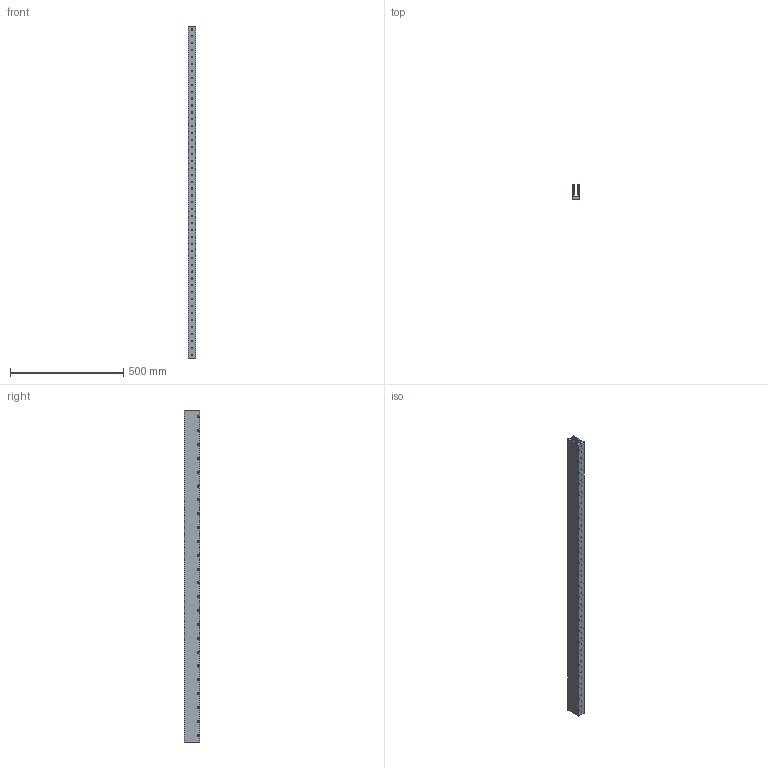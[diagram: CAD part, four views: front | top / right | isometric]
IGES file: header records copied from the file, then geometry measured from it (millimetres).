
Global section: file name: No Iges File Name specified; native system: Autodesk Inventor 2012; preprocessor: AutoDesk Inventor Iges Exporter R2012; author: je17857; date: 20120511.155341; units: inch
Bounding box: 34.29 x 67.31 x 1462.79 mm (x, y, z)
Volume: 2156303.3 mm3; surface area: 562526.8 mm2
Topology: 1 solids, 1 shells, 706 faces, 1632 edges, 1096 vertices
Faces by surface type: plane 562, revolution 144
